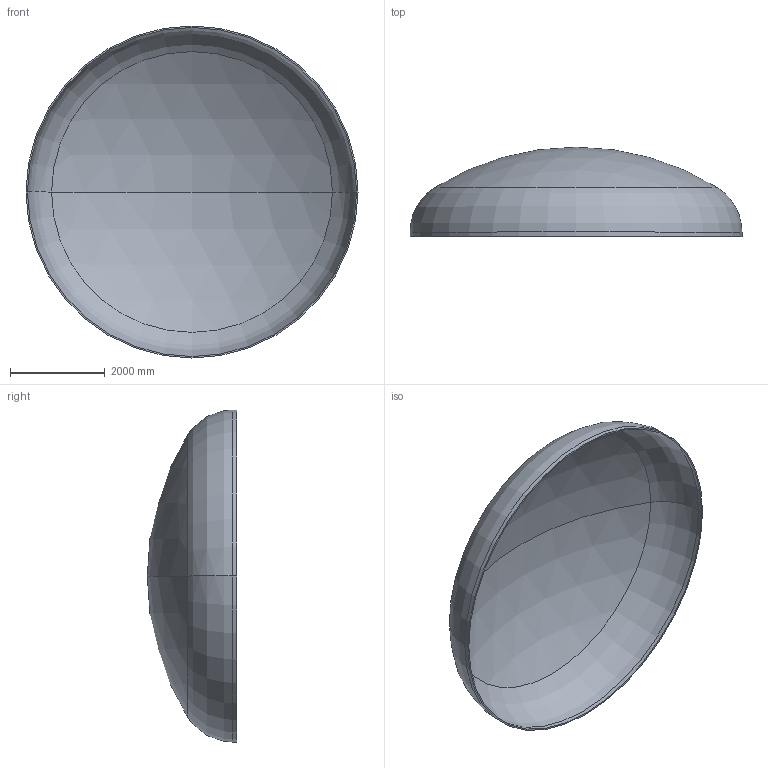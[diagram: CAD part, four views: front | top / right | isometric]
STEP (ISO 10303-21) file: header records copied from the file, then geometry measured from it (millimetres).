
FILE_DESCRIPTION (( 'STEP AP203' ), '1' );
FILE_NAME ('DIN 28013 Korbbogenform_-_Boden DIN 28013 - 7000 x 90 - I - s=30.step', '2016-07-04T10:46:28', ( '' ), ( '' ), 'SwSTEP 2.0', 'SolidWorks 2013', '' );
FILE_SCHEMA (( 'CONFIG_CONTROL_DESIGN' ));
Length unit declared in the file: millimetre
Products named in the file (1): DIN 28013 Korbbogenform_-_Boden DIN 28013 - 7000 x 90 - I - s=30
Bounding box: 7000 x 1883.56 x 7000 mm (x, y, z)
Volume: 1649750290.5 mm3; surface area: 110642100.7 mm2
Topology: 1 solids, 1 shells, 13 faces, 24 edges, 14 vertices
Faces by surface type: torus 4, cylinder 4, sphere 4, plane 1
Entity records: 407 total; most frequent: DIRECTION 72, CARTESIAN_POINT 52, ORIENTED_EDGE 48, AXIS2_PLACEMENT_3D 34, EDGE_CURVE 24, CIRCLE 20, EDGE_LOOP 14, VERTEX_POINT 14
